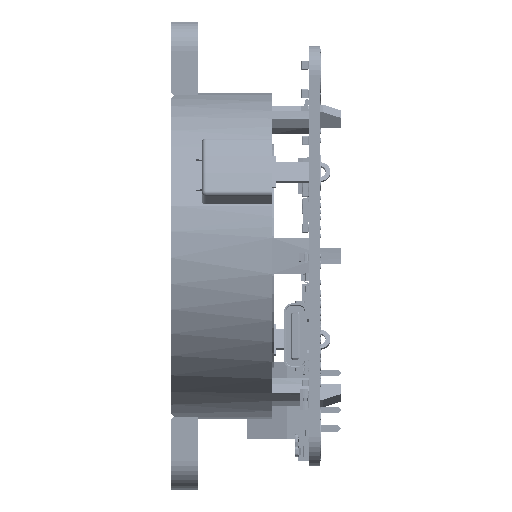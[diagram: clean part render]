
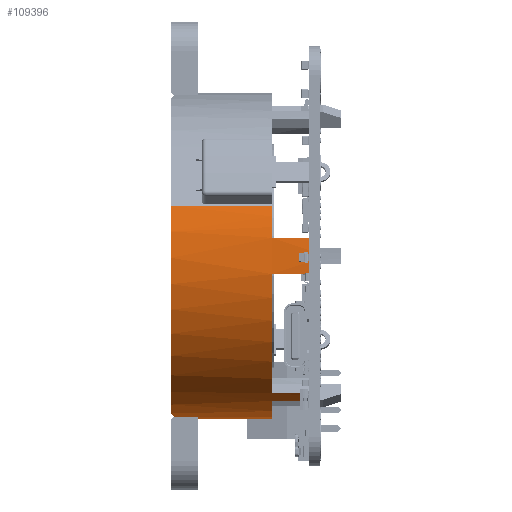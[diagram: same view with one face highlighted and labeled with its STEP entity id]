
A CAD part, left-side view. The second image highlights one B-rep face of the part: STEP entity #109396.
In plain terms, the highlighted cylindrical face has radius 22.5 mm (diameter 45 mm), a partial arc.
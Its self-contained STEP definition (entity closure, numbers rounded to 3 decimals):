
#59243 = EDGE_LOOP ( 'NONE', ( #162004, #162290, #162007, #162053, #162236, #162115, #162050, #162144, #162019, #162001, #162493, #162506, #162455, #162511, #162577 ) ) ;
#70765 = AXIS2_PLACEMENT_3D ( 'NONE', #80966, #80980, #80993 ) ;
#77573 = CYLINDRICAL_SURFACE ( 'NONE', #70765, 22.5 ) ;
#77612 = FACE_OUTER_BOUND ( 'NONE', #59243, .T. ) ;
#80966 = CARTESIAN_POINT ( 'NONE',  ( 0., 19., 0. ) ) ;
#80980 = DIRECTION ( 'NONE',  ( 0., -1., 0. ) ) ;
#80993 = DIRECTION ( 'NONE',  ( 0., 0., -1. ) ) ;
#109396 = ADVANCED_FACE ( 'NONE', ( #77612 ), #77573, .T. ) ;
#119806 = VERTEX_POINT ( 'NONE', #327619 ) ;
#119809 = VERTEX_POINT ( 'NONE', #327555 ) ;
#119817 = VERTEX_POINT ( 'NONE', #327561 ) ;
#119819 = VERTEX_POINT ( 'NONE', #327563 ) ;
#119824 = VERTEX_POINT ( 'NONE', #327627 ) ;
#119825 = VERTEX_POINT ( 'NONE', #327610 ) ;
#119841 = VERTEX_POINT ( 'NONE', #327640 ) ;
#119851 = VERTEX_POINT ( 'NONE', #327766 ) ;
#119854 = VERTEX_POINT ( 'NONE', #327782 ) ;
#119857 = VERTEX_POINT ( 'NONE', #327718 ) ;
#119864 = VERTEX_POINT ( 'NONE', #327666 ) ;
#119865 = VERTEX_POINT ( 'NONE', #327678 ) ;
#119871 = VERTEX_POINT ( 'NONE', #327704 ) ;
#119874 = VERTEX_POINT ( 'NONE', #327716 ) ;
#119876 = VERTEX_POINT ( 'NONE', #327662 ) ;
#162001 = ORIENTED_EDGE ( 'NONE', *, *, #193425, .F. ) ;
#162004 = ORIENTED_EDGE ( 'NONE', *, *, #193370, .F. ) ;
#162007 = ORIENTED_EDGE ( 'NONE', *, *, #193455, .F. ) ;
#162019 = ORIENTED_EDGE ( 'NONE', *, *, #193328, .T. ) ;
#162050 = ORIENTED_EDGE ( 'NONE', *, *, #193476, .T. ) ;
#162053 = ORIENTED_EDGE ( 'NONE', *, *, #193416, .F. ) ;
#162115 = ORIENTED_EDGE ( 'NONE', *, *, #193338, .F. ) ;
#162144 = ORIENTED_EDGE ( 'NONE', *, *, #193572, .F. ) ;
#162236 = ORIENTED_EDGE ( 'NONE', *, *, #193510, .F. ) ;
#162290 = ORIENTED_EDGE ( 'NONE', *, *, #193451, .T. ) ;
#162455 = ORIENTED_EDGE ( 'NONE', *, *, #193388, .F. ) ;
#162493 = ORIENTED_EDGE ( 'NONE', *, *, #193312, .T. ) ;
#162506 = ORIENTED_EDGE ( 'NONE', *, *, #193401, .F. ) ;
#162511 = ORIENTED_EDGE ( 'NONE', *, *, #193681, .T. ) ;
#162577 = ORIENTED_EDGE ( 'NONE', *, *, #193442, .F. ) ;
#173696 = AXIS2_PLACEMENT_3D ( 'NONE', #190471, #190458, #190520 ) ;
#173733 = AXIS2_PLACEMENT_3D ( 'NONE', #190466, #190523, #190504 ) ;
#173737 = AXIS2_PLACEMENT_3D ( 'NONE', #190584, #190565, #190623 ) ;
#173740 = AXIS2_PLACEMENT_3D ( 'NONE', #190107, #190131, #190129 ) ;
#173752 = AXIS2_PLACEMENT_3D ( 'NONE', #190315, #190329, #190237 ) ;
#173802 = AXIS2_PLACEMENT_3D ( 'NONE', #190420, #190380, #190346 ) ;
#173844 = AXIS2_PLACEMENT_3D ( 'NONE', #190253, #190246, #190272 ) ;
#187130 = CIRCLE ( 'NONE', #173740, 22.5 ) ;
#187174 = CIRCLE ( 'NONE', #173844, 22.5 ) ;
#187188 = CIRCLE ( 'NONE', #173752, 22.5 ) ;
#187206 = CIRCLE ( 'NONE', #173802, 22.5 ) ;
#187210 = LINE ( 'NONE', #190444, #187286 ) ;
#187221 = VECTOR ( 'NONE', #190269, 1000. ) ;
#187228 = LINE ( 'NONE', #190333, #187221 ) ;
#187231 = LINE ( 'NONE', #190406, #187300 ) ;
#187286 = VECTOR ( 'NONE', #190364, 1000. ) ;
#187300 = VECTOR ( 'NONE', #190423, 1000. ) ;
#187324 = LINE ( 'NONE', #190360, #187331 ) ;
#187331 = VECTOR ( 'NONE', #190425, 1000. ) ;
#187375 = CIRCLE ( 'NONE', #173696, 22.5 ) ;
#187392 = LINE ( 'NONE', #190506, #187461 ) ;
#187402 = LINE ( 'NONE', #190508, #187486 ) ;
#187423 = CIRCLE ( 'NONE', #173733, 22.5 ) ;
#187461 = VECTOR ( 'NONE', #190541, 1000. ) ;
#187486 = VECTOR ( 'NONE', #190461, 1000. ) ;
#187525 = CIRCLE ( 'NONE', #173737, 22.5 ) ;
#187588 = VECTOR ( 'NONE', #190711, 1000. ) ;
#187645 = LINE ( 'NONE', #190637, #187588 ) ;
#190107 = CARTESIAN_POINT ( 'NONE',  ( 0., 5., 0. ) ) ;
#190129 = DIRECTION ( 'NONE',  ( 0., 0., 1. ) ) ;
#190131 = DIRECTION ( 'NONE',  ( 0., 1., 0. ) ) ;
#190237 = DIRECTION ( 'NONE',  ( 0., 0., 1. ) ) ;
#190246 = DIRECTION ( 'NONE',  ( 0., 1., 0. ) ) ;
#190253 = CARTESIAN_POINT ( 'NONE',  ( 0., 0., 0. ) ) ;
#190269 = DIRECTION ( 'NONE',  ( 0., -1., 0. ) ) ;
#190272 = DIRECTION ( 'NONE',  ( 0., 0., 1. ) ) ;
#190315 = CARTESIAN_POINT ( 'NONE',  ( 0., 15.25, 0. ) ) ;
#190329 = DIRECTION ( 'NONE',  ( 0., 1., 0. ) ) ;
#190333 = CARTESIAN_POINT ( 'NONE',  ( -12.147, 19., -18.939 ) ) ;
#190346 = DIRECTION ( 'NONE',  ( 0., 0., 1. ) ) ;
#190360 = CARTESIAN_POINT ( 'NONE',  ( -22.361, 19., 2.5 ) ) ;
#190364 = DIRECTION ( 'NONE',  ( 0., -1., 0. ) ) ;
#190380 = DIRECTION ( 'NONE',  ( 0., 1., 0. ) ) ;
#190406 = CARTESIAN_POINT ( 'NONE',  ( -10.328, 19., -19.989 ) ) ;
#190420 = CARTESIAN_POINT ( 'NONE',  ( 0., 19., 0. ) ) ;
#190423 = DIRECTION ( 'NONE',  ( 0., 1., 0. ) ) ;
#190425 = DIRECTION ( 'NONE',  ( 0., -1., 0. ) ) ;
#190444 = CARTESIAN_POINT ( 'NONE',  ( -21.411, 19., 6.915 ) ) ;
#190458 = DIRECTION ( 'NONE',  ( 0., 1., 0. ) ) ;
#190461 = DIRECTION ( 'NONE',  ( 0., 1., 0. ) ) ;
#190466 = CARTESIAN_POINT ( 'NONE',  ( 0., 5., 0. ) ) ;
#190471 = CARTESIAN_POINT ( 'NONE',  ( 0., 5., 0. ) ) ;
#190504 = DIRECTION ( 'NONE',  ( 0., 0., -1. ) ) ;
#190506 = CARTESIAN_POINT ( 'NONE',  ( 0., 19., -22.5 ) ) ;
#190508 = CARTESIAN_POINT ( 'NONE',  ( -4., 15.25, -22.142 ) ) ;
#190520 = DIRECTION ( 'NONE',  ( 0., 0., 1. ) ) ;
#190523 = DIRECTION ( 'NONE',  ( 0., -1., 0. ) ) ;
#190541 = DIRECTION ( 'NONE',  ( 0., -1., 0. ) ) ;
#190565 = DIRECTION ( 'NONE',  ( 0., -1., 0. ) ) ;
#190584 = CARTESIAN_POINT ( 'NONE',  ( 0., -1.5, 0. ) ) ;
#190623 = DIRECTION ( 'NONE',  ( 0., 0., -1. ) ) ;
#190637 = CARTESIAN_POINT ( 'NONE',  ( -22.361, 19., -2.5 ) ) ;
#190711 = DIRECTION ( 'NONE',  ( 0., 1., 0. ) ) ;
#190814 = CARTESIAN_POINT ( 'NONE',  ( -5.274, 18.829, -21.883 ) ) ;
#190817 = CARTESIAN_POINT ( 'NONE',  ( -4.64, 18.686, -22.026 ) ) ;
#190841 = CARTESIAN_POINT ( 'NONE',  ( -5.901, 19., -21.712 ) ) ;
#190847 = CARTESIAN_POINT ( 'NONE',  ( -4., 18.57, -22.142 ) ) ;
#193312 = EDGE_CURVE ( 'NONE', #119871, #119809, #187130, .T. ) ;
#193328 = EDGE_CURVE ( 'NONE', #119851, #119824, #187174, .T. ) ;
#193338 = EDGE_CURVE ( 'NONE', #119857, #119841, #187228, .T. ) ;
#193370 = EDGE_CURVE ( 'NONE', #119819, #119864, #187188, .T. ) ;
#193388 = EDGE_CURVE ( 'NONE', #119806, #119874, #187206, .T. ) ;
#193401 = EDGE_CURVE ( 'NONE', #119874, #119809, #187210, .T. ) ;
#193416 = EDGE_CURVE ( 'NONE', #119865, #119825, #187231, .T. ) ;
#193425 = EDGE_CURVE ( 'NONE', #119871, #119824, #187324, .T. ) ;
#193442 = EDGE_CURVE ( 'NONE', #119864, #119854, #187402, .T. ) ;
#193451 = EDGE_CURVE ( 'NONE', #119819, #119876, #187392, .T. ) ;
#193455 = EDGE_CURVE ( 'NONE', #119825, #119876, #187423, .T. ) ;
#193476 = EDGE_CURVE ( 'NONE', #119857, #119817, #187375, .T. ) ;
#193510 = EDGE_CURVE ( 'NONE', #119841, #119865, #187525, .T. ) ;
#193572 = EDGE_CURVE ( 'NONE', #119851, #119817, #187645, .T. ) ;
#193681 = EDGE_CURVE ( 'NONE', #119806, #119854, #310227, .T. ) ;
#310227 =( BOUNDED_CURVE ( )  B_SPLINE_CURVE ( 3, ( #190841, #190814, #190817, #190847 ),
 .UNSPECIFIED., .F., .F. ) 
 B_SPLINE_CURVE_WITH_KNOTS ( ( 4, 4 ),
 ( 6.018, 6.104 ),
 .UNSPECIFIED. ) 
 CURVE ( )  GEOMETRIC_REPRESENTATION_ITEM ( )  RATIONAL_B_SPLINE_CURVE ( ( 1., 0.999, 0.999, 1. ) ) 
 REPRESENTATION_ITEM ( '' )  );
#327555 = CARTESIAN_POINT ( 'NONE',  ( -21.411, 5., 6.915 ) ) ;
#327561 = CARTESIAN_POINT ( 'NONE',  ( -22.361, 5., -2.5 ) ) ;
#327563 = CARTESIAN_POINT ( 'NONE',  ( 0., 15.25, -22.5 ) ) ;
#327610 = CARTESIAN_POINT ( 'NONE',  ( -10.328, 5., -19.989 ) ) ;
#327619 = CARTESIAN_POINT ( 'NONE',  ( -5.901, 19., -21.712 ) ) ;
#327627 = CARTESIAN_POINT ( 'NONE',  ( -22.361, 0., 2.5 ) ) ;
#327640 = CARTESIAN_POINT ( 'NONE',  ( -12.147, -1.5, -18.939 ) ) ;
#327662 = CARTESIAN_POINT ( 'NONE',  ( 0., 5., -22.5 ) ) ;
#327666 = CARTESIAN_POINT ( 'NONE',  ( -4., 15.25, -22.142 ) ) ;
#327678 = CARTESIAN_POINT ( 'NONE',  ( -10.328, -1.5, -19.989 ) ) ;
#327704 = CARTESIAN_POINT ( 'NONE',  ( -22.361, 5., 2.5 ) ) ;
#327716 = CARTESIAN_POINT ( 'NONE',  ( -21.411, 19., 6.915 ) ) ;
#327718 = CARTESIAN_POINT ( 'NONE',  ( -12.147, 5., -18.939 ) ) ;
#327766 = CARTESIAN_POINT ( 'NONE',  ( -22.361, 0., -2.5 ) ) ;
#327782 = CARTESIAN_POINT ( 'NONE',  ( -4., 18.57, -22.142 ) ) ;
